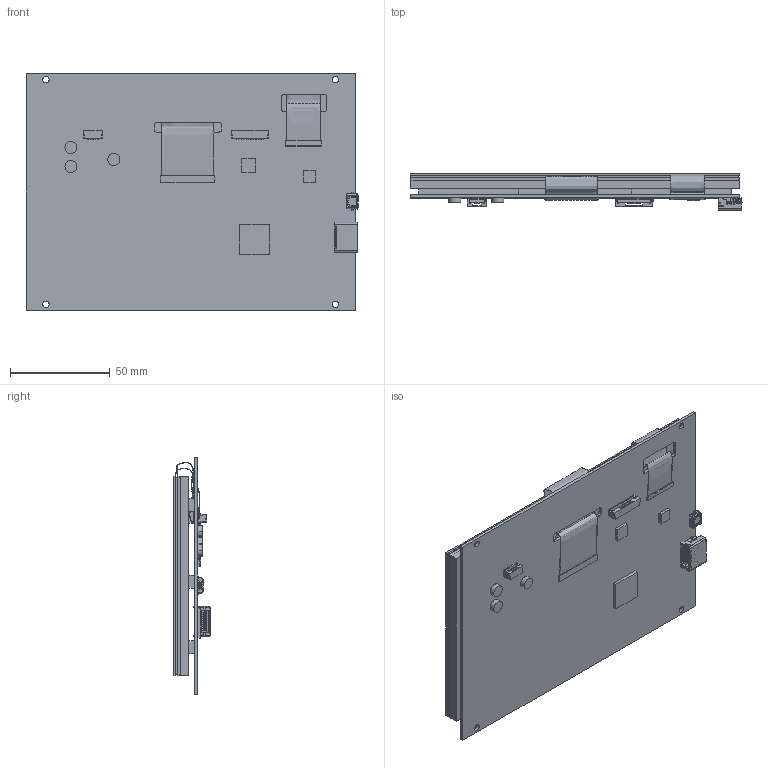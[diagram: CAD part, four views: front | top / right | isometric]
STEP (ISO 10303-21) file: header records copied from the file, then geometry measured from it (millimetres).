
FILE_DESCRIPTION((''),'2;1');
FILE_NAME('GT800X480A-1303P_ASM','2017-11-03T',('samx'),(''),'PRO/ENGINEER BY PARAMETRIC TECHNOLOGY CORPORATION, 2010280','PRO/ENGINEER BY PARAMETRIC TECHNOLOGY CORPORATION, 2010280','');
FILE_SCHEMA(('CONFIG_CONTROL_DESIGN'));
Length unit declared in the file: millimetre
Products named in the file (6): GT800X480A-1303P; HIROSE_MINI_USB-ZX62-AB-5PA; MOLEX_HDMI_471510001; JST_SM12B-GHS-TB; JST_SM05B-GHS-TB; GT800X480A-1303P_ASM
Assembly tree (5 placements, depth 2):
  GT800X480A-1303P_ASM
    GT800X480A-1303P
    HIROSE_MINI_USB-ZX62-AB-5PA
    MOLEX_HDMI_471510001
    JST_SM12B-GHS-TB
    JST_SM05B-GHS-TB
Bounding box: 166.3 x 18.08 x 118.5 mm (x, y, z)
Volume: 146769 mm3; surface area: 117885.7 mm2
Topology: 6 solids, 7 shells, 1954 faces, 5674 edges, 3696 vertices
Faces by surface type: plane 1534, cylinder 396, bspline 16, extrusion 4, cone 4
Entity records: 65171 total; most frequent: CARTESIAN_POINT 12871, ORIENTED_EDGE 11348, DIRECTION 10268, EDGE_CURVE 5674, VECTOR 4746, LINE 4742, VERTEX_POINT 3696, AXIS2_PLACEMENT_3D 2761
